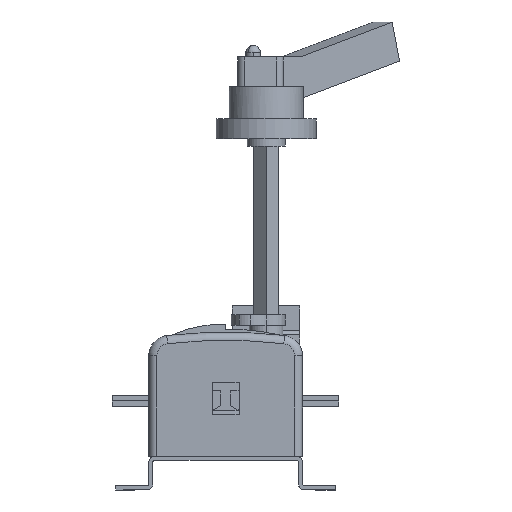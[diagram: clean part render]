
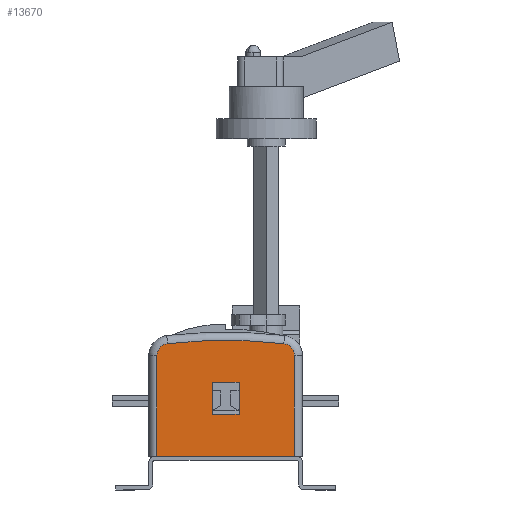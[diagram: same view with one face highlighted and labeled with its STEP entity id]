
A CAD part, left-side view. The second image highlights one B-rep face of the part: STEP entity #13670.
In plain terms, the highlighted planar face has unit normal (-1, 0, 0).
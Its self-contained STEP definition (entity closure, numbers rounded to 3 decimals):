
#208 = AXIS2_PLACEMENT_3D ( 'NONE', #12601, #10150, #2201 ) ;
#500 = EDGE_CURVE ( 'NONE', #5123, #9625, #13217, .T. ) ;
#670 = ORIENTED_EDGE ( 'NONE', *, *, #6133, .T. ) ;
#969 = EDGE_CURVE ( 'NONE', #10125, #9625, #2421, .T. ) ;
#980 = CARTESIAN_POINT ( 'NONE',  ( -249., 40., 56. ) ) ;
#1063 = PLANE ( 'NONE',  #208 ) ;
#1448 = CARTESIAN_POINT ( 'NONE',  ( -249., -21., 99.576 ) ) ;
#1472 = ORIENTED_EDGE ( 'NONE', *, *, #3120, .F. ) ;
#1701 = VERTEX_POINT ( 'NONE', #15487 ) ;
#2058 = DIRECTION ( 'NONE',  ( 0., -1., 0. ) ) ;
#2065 = AXIS2_PLACEMENT_3D ( 'NONE', #14542, #6988, #10767 ) ;
#2201 = DIRECTION ( 'NONE',  ( 0., 0., -1. ) ) ;
#2267 = EDGE_CURVE ( 'NONE', #1701, #3241, #7493, .T. ) ;
#2338 = CARTESIAN_POINT ( 'NONE',  ( -249., -12., 99.576 ) ) ;
#2350 = DIRECTION ( 'NONE',  ( 0., 0., -1. ) ) ;
#2390 = CARTESIAN_POINT ( 'NONE',  ( -249., 81., 25. ) ) ;
#2421 = LINE ( 'NONE', #8116, #12190 ) ;
#2447 = CIRCLE ( 'NONE', #2717, 374. ) ;
#2456 = CARTESIAN_POINT ( 'NONE',  ( -249., 81., 99.576 ) ) ;
#2469 = VERTEX_POINT ( 'NONE', #15042 ) ;
#2591 = CARTESIAN_POINT ( 'NONE',  ( -249., 40., 56. ) ) ;
#2618 = FACE_OUTER_BOUND ( 'NONE', #7097, .T. ) ;
#2717 = AXIS2_PLACEMENT_3D ( 'NONE', #6211, #16736, #15356 ) ;
#3120 = EDGE_CURVE ( 'NONE', #9602, #5123, #7231, .T. ) ;
#3241 = VERTEX_POINT ( 'NONE', #2456 ) ;
#3773 = VECTOR ( 'NONE', #2350, 1000. ) ;
#4108 = DIRECTION ( 'NONE',  ( 0., 0., 1. ) ) ;
#4948 = LINE ( 'NONE', #16686, #10403 ) ;
#5123 = VERTEX_POINT ( 'NONE', #2591 ) ;
#5458 = VERTEX_POINT ( 'NONE', #9911 ) ;
#6047 = VERTEX_POINT ( 'NONE', #2390 ) ;
#6071 = VECTOR ( 'NONE', #4108, 1000. ) ;
#6111 = DIRECTION ( 'NONE',  ( 0., -1., 0. ) ) ;
#6112 = EDGE_CURVE ( 'NONE', #2469, #1701, #2447, .T. ) ;
#6133 = EDGE_CURVE ( 'NONE', #5458, #2469, #7549, .T. ) ;
#6211 = CARTESIAN_POINT ( 'NONE',  ( -249., 30., -263. ) ) ;
#6335 = VECTOR ( 'NONE', #2058, 1000. ) ;
#6383 = DIRECTION ( 'NONE',  ( 0., 0., -1. ) ) ;
#6943 = CARTESIAN_POINT ( 'NONE',  ( -249., 20., 80. ) ) ;
#6988 = DIRECTION ( 'NONE',  ( -1., 0., 0. ) ) ;
#7097 = EDGE_LOOP ( 'NONE', ( #9423, #12551, #670, #13411, #7471, #8381 ) ) ;
#7231 = LINE ( 'NONE', #980, #3773 ) ;
#7307 = EDGE_LOOP ( 'NONE', ( #11141, #1472, #15750, #16523 ) ) ;
#7471 = ORIENTED_EDGE ( 'NONE', *, *, #2267, .T. ) ;
#7493 = CIRCLE ( 'NONE', #2065, 9. ) ;
#7549 = CIRCLE ( 'NONE', #14061, 9. ) ;
#7815 = CARTESIAN_POINT ( 'NONE',  ( -249., -21., 25. ) ) ;
#8116 = CARTESIAN_POINT ( 'NONE',  ( -249., 20., 56. ) ) ;
#8222 = VECTOR ( 'NONE', #10222, 1000. ) ;
#8381 = ORIENTED_EDGE ( 'NONE', *, *, #11566, .T. ) ;
#8481 = CARTESIAN_POINT ( 'NONE',  ( -249., 40., 56. ) ) ;
#8511 = LINE ( 'NONE', #1448, #6071 ) ;
#9423 = ORIENTED_EDGE ( 'NONE', *, *, #12109, .F. ) ;
#9602 = VERTEX_POINT ( 'NONE', #9969 ) ;
#9625 = VERTEX_POINT ( 'NONE', #12806 ) ;
#9911 = CARTESIAN_POINT ( 'NONE',  ( -249., -21., 99.576 ) ) ;
#9969 = CARTESIAN_POINT ( 'NONE',  ( -249., 40., 80. ) ) ;
#10125 = VERTEX_POINT ( 'NONE', #6943 ) ;
#10150 = DIRECTION ( 'NONE',  ( 1., 0., 0. ) ) ;
#10222 = DIRECTION ( 'NONE',  ( 0., 1., 0. ) ) ;
#10403 = VECTOR ( 'NONE', #14166, 1000. ) ;
#10600 = VECTOR ( 'NONE', #6111, 1000. ) ;
#10767 = DIRECTION ( 'NONE',  ( 0., 0., -1. ) ) ;
#11141 = ORIENTED_EDGE ( 'NONE', *, *, #500, .F. ) ;
#11266 = CARTESIAN_POINT ( 'NONE',  ( -249., 40., 80. ) ) ;
#11433 = DIRECTION ( 'NONE',  ( -1., 0., 0. ) ) ;
#11566 = EDGE_CURVE ( 'NONE', #3241, #6047, #4948, .T. ) ;
#11664 = CARTESIAN_POINT ( 'NONE',  ( -249., 87., 25. ) ) ;
#11997 = FACE_BOUND ( 'NONE', #7307, .T. ) ;
#12109 = EDGE_CURVE ( 'NONE', #14410, #6047, #14336, .T. ) ;
#12190 = VECTOR ( 'NONE', #13345, 1000. ) ;
#12551 = ORIENTED_EDGE ( 'NONE', *, *, #14371, .T. ) ;
#12589 = EDGE_CURVE ( 'NONE', #9602, #10125, #14090, .T. ) ;
#12601 = CARTESIAN_POINT ( 'NONE',  ( -249., 30., -263. ) ) ;
#12806 = CARTESIAN_POINT ( 'NONE',  ( -249., 20., 56. ) ) ;
#13217 = LINE ( 'NONE', #8481, #6335 ) ;
#13345 = DIRECTION ( 'NONE',  ( 0., 0., -1. ) ) ;
#13411 = ORIENTED_EDGE ( 'NONE', *, *, #6112, .T. ) ;
#13670 = ADVANCED_FACE ( 'NONE', ( #11997, #2618 ), #1063, .F. ) ;
#14061 = AXIS2_PLACEMENT_3D ( 'NONE', #2338, #11433, #6383 ) ;
#14090 = LINE ( 'NONE', #11266, #10600 ) ;
#14166 = DIRECTION ( 'NONE',  ( 0., 0., -1. ) ) ;
#14336 = LINE ( 'NONE', #11664, #8222 ) ;
#14371 = EDGE_CURVE ( 'NONE', #14410, #5458, #8511, .T. ) ;
#14410 = VERTEX_POINT ( 'NONE', #7815 ) ;
#14542 = CARTESIAN_POINT ( 'NONE',  ( -249., 72., 99.576 ) ) ;
#15042 = CARTESIAN_POINT ( 'NONE',  ( -249., -13.036, 108.516 ) ) ;
#15356 = DIRECTION ( 'NONE',  ( 0., 0., -1. ) ) ;
#15487 = CARTESIAN_POINT ( 'NONE',  ( -249., 73.036, 108.516 ) ) ;
#15750 = ORIENTED_EDGE ( 'NONE', *, *, #12589, .T. ) ;
#16523 = ORIENTED_EDGE ( 'NONE', *, *, #969, .T. ) ;
#16686 = CARTESIAN_POINT ( 'NONE',  ( -249., 81., 25. ) ) ;
#16736 = DIRECTION ( 'NONE',  ( -1., 0., 0. ) ) ;
